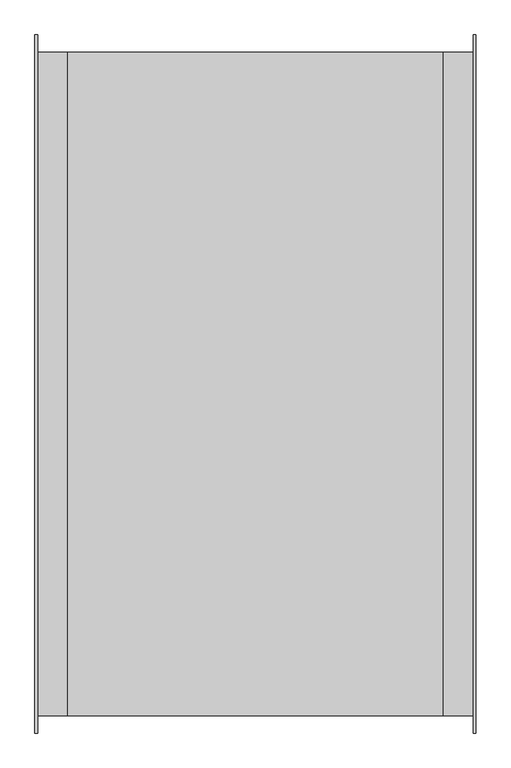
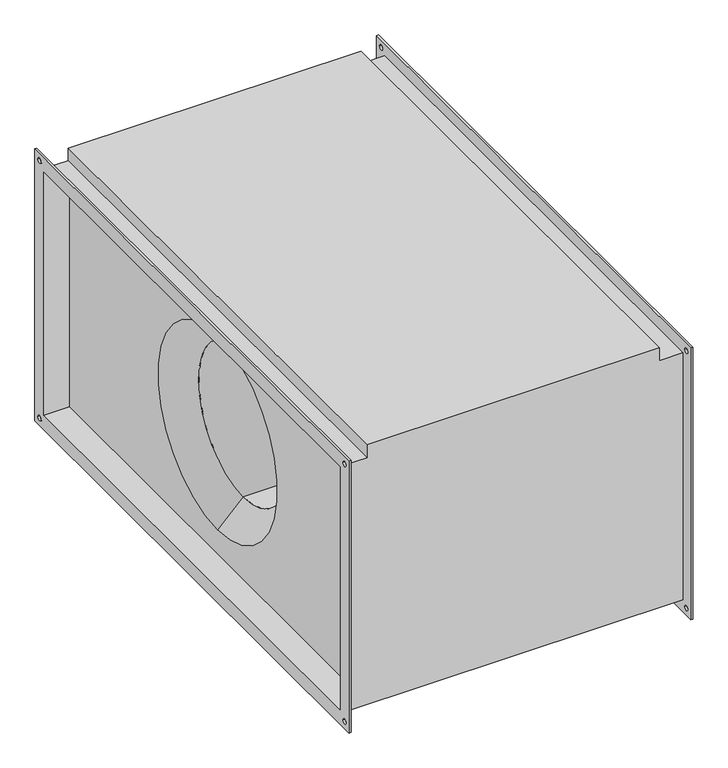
"""IFC4 building model written with IfcOpenShell, lengths in millimetres: proxy geometry, СВ_Вентилятор_КанальныйПрямоугольный_200-1000_SVPS : SVPS-1000x500/40.2D."""

from ifc_helpers import new_model, si_unit, frame, origin, place, context, project, spatial, polyline, circle_curve, source, transform, mapped, element, save
from ifc_brep_helpers import plane_surface, revolved_surface, advanced_brep


def mechanical_equipment_a99c537c(model_context):
    return source(origin(), model_context, "Body", "AdvancedBrep", [
        advanced_brep(
        [(-331.0, -504.0, 254.0), (-285.0, -504.0, 254.0), (-285.0, 504.0, 254.0), (-331.0, 504.0, 254.0), (285.0, 504.0, 280.0), (285.0, -504.0, 280.0), (285.0, -504.0, 254.0), (285.0, 504.0, 254.0), (285.0, 500.0, -250.0), (285.0, 500.0, 250.0), (285.0, -500.0, 250.0), (285.0, -500.0, -250.0), (285.0, 0.0, 200.0), (285.0, 0.0, -200.0), (-285.0, 500.0, 250.0), (-285.0, 500.0, -250.0), (-285.0, -500.0, -250.0), (-285.0, -500.0, 250.0), (-285.0, 0.0, -200.0), (-285.0, 0.0, 200.0), (-285.0, -504.0, 280.0), (-285.0, 504.0, 280.0), (-331.0, -504.0, -254.0), (331.0, -504.0, -254.0), (331.0, -504.0, 254.0), (-331.0, 504.0, -254.0), (331.0, 504.0, -254.0), (331.0, 504.0, 254.0), (235.0, 0.0, -150.0), (235.0, 0.0, 150.0), (-235.0, 0.0, 150.0), (-235.0, 0.0, -150.0), (-335.0, -530.0, 280.0), (-335.0, 530.0, 280.0), (-335.0, 530.0, -280.0), (-335.0, -530.0, -280.0), (-335.0, -500.0, 250.0), (-335.0, -500.0, -250.0), (-335.0, 500.0, -250.0), (-335.0, 500.0, 250.0), (-335.0, 510.0, 265.0), (-335.0, 520.0, 265.0), (-335.0, -520.0, 265.0), (-335.0, -510.0, 265.0), (-335.0, -520.0, -265.0), (-335.0, -510.0, -265.0), (-335.0, 510.0, -265.0), (-335.0, 520.0, -265.0), (-331.0, -530.0, 280.0), (-331.0, -530.0, -280.0), (-331.0, 530.0, -280.0), (-331.0, 530.0, 280.0), (-331.0, 520.0, 265.0), (-331.0, 510.0, 265.0), (-331.0, -510.0, 265.0), (-331.0, -520.0, 265.0), (-331.0, -510.0, -265.0), (-331.0, -520.0, -265.0), (-331.0, 520.0, -265.0), (-331.0, 510.0, -265.0), (331.0, 530.0, 280.0), (331.0, 530.0, -280.0), (331.0, -530.0, -280.0), (331.0, -530.0, 280.0), (331.0, 510.0, 265.0), (331.0, 520.0, 265.0), (331.0, -520.0, 265.0), (331.0, -510.0, 265.0), (331.0, -520.0, -265.0), (331.0, -510.0, -265.0), (331.0, 510.0, -265.0), (331.0, 520.0, -265.0), (335.0, 530.0, 280.0), (335.0, -530.0, 280.0), (335.0, -530.0, -280.0), (335.0, 530.0, -280.0), (335.0, 500.0, 250.0), (335.0, 500.0, -250.0), (335.0, -500.0, -250.0), (335.0, -500.0, 250.0), (335.0, 520.0, 265.0), (335.0, 510.0, 265.0), (335.0, -510.0, 265.0), (335.0, -520.0, 265.0), (335.0, -510.0, -265.0), (335.0, -520.0, -265.0), (335.0, 520.0, -265.0), (335.0, 510.0, -265.0)],
        [
            (0, 1),
            (1, 2),
            (2, 3),
            (3, 0),
            (4, 5),
            (5, 6),
            (6, 7),
            (7, 4),
            (8, 9),
            (9, 10),
            (10, 11),
            (11, 8),
            (12, 13, circle_curve(frame((285.0, 0.0, 0.0), z_axis=(-1.0, 0.0, 0.0), x_axis=(0.0, 0.0, 1.0)), 200.0)),
            (13, 12, circle_curve(frame((285.0, 0.0, 0.0), z_axis=(-1.0, 0.0, 0.0), x_axis=(0.0, 0.0, 1.0)), 200.0)),
            (14, 15),
            (15, 16),
            (16, 17),
            (17, 14),
            (18, 19, circle_curve(frame((-285.0, 0.0, 0.0), z_axis=(1.0, 0.0, 0.0), x_axis=(0.0, 0.0, 1.0)), 200.0)),
            (19, 18, circle_curve(frame((-285.0, 0.0, 0.0), z_axis=(1.0, 0.0, 0.0), x_axis=(0.0, 0.0, 1.0)), 200.0)),
            (20, 21),
            (21, 2),
            (1, 20),
            (5, 20),
            (0, 22),
            (22, 23),
            (23, 24),
            (24, 6),
            (22, 25),
            (25, 26),
            (26, 23),
            (21, 4),
            (7, 27),
            (27, 26),
            (25, 3),
            (24, 27),
            (28, 13),
            (12, 29),
            (29, 28, circle_curve(frame((235.0, 0.0, 0.0), z_axis=(-1.0, 0.0, 0.0), x_axis=(0.0, 0.0, 1.0)), 150.0)),
            (28, 29, circle_curve(frame((235.0, 0.0, 0.0), z_axis=(-1.0, 0.0, 0.0), x_axis=(0.0, 0.0, 1.0)), 150.0)),
            (29, 30),
            (30, 31, circle_curve(frame((-235.0, 0.0, 0.0), z_axis=(-1.0, 0.0, 0.0), x_axis=(0.0, 0.0, 1.0)), 150.0)),
            (31, 28),
            (31, 30, circle_curve(frame((-235.0, 0.0, 0.0), z_axis=(-1.0, 0.0, 0.0), x_axis=(0.0, 0.0, 1.0)), 150.0)),
            (30, 19),
            (18, 31),
            (32, 33),
            (33, 34),
            (34, 35),
            (35, 32),
            (36, 37),
            (37, 38),
            (38, 39),
            (39, 36),
            (40, 41, circle_curve(frame((-335.0, 515.0, 265.0), z_axis=(1.0, 0.0, 0.0), x_axis=(0.0, 1.0, 0.0)), 5.0)),
            (41, 40, circle_curve(frame((-335.0, 515.0, 265.0), z_axis=(1.0, 0.0, 0.0), x_axis=(0.0, 1.0, 0.0)), 5.0)),
            (42, 43, circle_curve(frame((-335.0, -515.0, 265.0), z_axis=(1.0, 0.0, 0.0), x_axis=(0.0, 1.0, 0.0)), 5.0)),
            (43, 42, circle_curve(frame((-335.0, -515.0, 265.0), z_axis=(1.0, 0.0, 0.0), x_axis=(0.0, 1.0, 0.0)), 5.0)),
            (44, 45, circle_curve(frame((-335.0, -515.0, -265.0), z_axis=(1.0, 0.0, 0.0), x_axis=(0.0, 1.0, 0.0)), 5.0)),
            (45, 44, circle_curve(frame((-335.0, -515.0, -265.0), z_axis=(1.0, 0.0, 0.0), x_axis=(0.0, 1.0, 0.0)), 5.0)),
            (46, 47, circle_curve(frame((-335.0, 515.0, -265.0), z_axis=(1.0, 0.0, 0.0), x_axis=(0.0, 1.0, 0.0)), 5.0)),
            (47, 46, circle_curve(frame((-335.0, 515.0, -265.0), z_axis=(1.0, 0.0, 0.0), x_axis=(0.0, 1.0, 0.0)), 5.0)),
            (48, 49),
            (49, 50),
            (50, 51),
            (51, 48),
            (52, 53, circle_curve(frame((-331.0, 515.0, 265.0), z_axis=(-1.0, 0.0, 0.0), x_axis=(0.0, 1.0, 0.0)), 5.0)),
            (53, 52, circle_curve(frame((-331.0, 515.0, 265.0), z_axis=(-1.0, 0.0, 0.0), x_axis=(0.0, 1.0, 0.0)), 5.0)),
            (54, 55, circle_curve(frame((-331.0, -515.0, 265.0), z_axis=(-1.0, 0.0, 0.0), x_axis=(0.0, 1.0, 0.0)), 5.0)),
            (55, 54, circle_curve(frame((-331.0, -515.0, 265.0), z_axis=(-1.0, 0.0, 0.0), x_axis=(0.0, 1.0, 0.0)), 5.0)),
            (56, 57, circle_curve(frame((-331.0, -515.0, -265.0), z_axis=(-1.0, 0.0, 0.0), x_axis=(0.0, 1.0, 0.0)), 5.0)),
            (57, 56, circle_curve(frame((-331.0, -515.0, -265.0), z_axis=(-1.0, 0.0, 0.0), x_axis=(0.0, 1.0, 0.0)), 5.0)),
            (58, 59, circle_curve(frame((-331.0, 515.0, -265.0), z_axis=(-1.0, 0.0, 0.0), x_axis=(0.0, 1.0, 0.0)), 5.0)),
            (59, 58, circle_curve(frame((-331.0, 515.0, -265.0), z_axis=(-1.0, 0.0, 0.0), x_axis=(0.0, 1.0, 0.0)), 5.0)),
            (35, 49),
            (48, 32),
            (34, 50),
            (33, 51),
            (60, 61),
            (61, 62),
            (62, 63),
            (63, 60),
            (64, 65, circle_curve(frame((331.0, 515.0, 265.0), z_axis=(1.0, 0.0, 0.0), x_axis=(0.0, 1.0, 0.0)), 5.0)),
            (65, 64, circle_curve(frame((331.0, 515.0, 265.0), z_axis=(1.0, 0.0, 0.0), x_axis=(0.0, 1.0, 0.0)), 5.0)),
            (66, 67, circle_curve(frame((331.0, -515.0, 265.0), z_axis=(1.0, 0.0, 0.0), x_axis=(0.0, 1.0, 0.0)), 5.0)),
            (67, 66, circle_curve(frame((331.0, -515.0, 265.0), z_axis=(1.0, 0.0, 0.0), x_axis=(0.0, 1.0, 0.0)), 5.0)),
            (68, 69, circle_curve(frame((331.0, -515.0, -265.0), z_axis=(1.0, 0.0, 0.0), x_axis=(0.0, 1.0, 0.0)), 5.0)),
            (69, 68, circle_curve(frame((331.0, -515.0, -265.0), z_axis=(1.0, 0.0, 0.0), x_axis=(0.0, 1.0, 0.0)), 5.0)),
            (70, 71, circle_curve(frame((331.0, 515.0, -265.0), z_axis=(1.0, 0.0, 0.0), x_axis=(0.0, 1.0, 0.0)), 5.0)),
            (71, 70, circle_curve(frame((331.0, 515.0, -265.0), z_axis=(1.0, 0.0, 0.0), x_axis=(0.0, 1.0, 0.0)), 5.0)),
            (72, 73),
            (73, 74),
            (74, 75),
            (75, 72),
            (76, 77),
            (77, 78),
            (78, 79),
            (79, 76),
            (80, 81, circle_curve(frame((335.0, 515.0, 265.0), z_axis=(-1.0, 0.0, 0.0), x_axis=(0.0, 1.0, 0.0)), 5.0)),
            (81, 80, circle_curve(frame((335.0, 515.0, 265.0), z_axis=(-1.0, 0.0, 0.0), x_axis=(0.0, 1.0, 0.0)), 5.0)),
            (82, 83, circle_curve(frame((335.0, -515.0, 265.0), z_axis=(-1.0, 0.0, 0.0), x_axis=(0.0, 1.0, 0.0)), 5.0)),
            (83, 82, circle_curve(frame((335.0, -515.0, 265.0), z_axis=(-1.0, 0.0, 0.0), x_axis=(0.0, 1.0, 0.0)), 5.0)),
            (84, 85, circle_curve(frame((335.0, -515.0, -265.0), z_axis=(-1.0, 0.0, 0.0), x_axis=(0.0, 1.0, 0.0)), 5.0)),
            (85, 84, circle_curve(frame((335.0, -515.0, -265.0), z_axis=(-1.0, 0.0, 0.0), x_axis=(0.0, 1.0, 0.0)), 5.0)),
            (86, 87, circle_curve(frame((335.0, 515.0, -265.0), z_axis=(-1.0, 0.0, 0.0), x_axis=(0.0, 1.0, 0.0)), 5.0)),
            (87, 86, circle_curve(frame((335.0, 515.0, -265.0), z_axis=(-1.0, 0.0, 0.0), x_axis=(0.0, 1.0, 0.0)), 5.0)),
            (63, 73),
            (72, 60),
            (62, 74),
            (61, 75),
            (39, 14),
            (17, 36),
            (38, 15),
            (37, 16),
            (76, 9),
            (8, 77),
            (11, 78),
            (10, 79),
            (40, 53),
            (52, 41),
            (64, 81),
            (80, 65),
            (42, 55),
            (54, 43),
            (66, 83),
            (82, 67),
            (44, 57),
            (56, 45),
            (68, 85),
            (84, 69),
            (46, 59),
            (58, 47),
            (70, 87),
            (86, 71),
        ],
        [
            plane_surface(frame((-285.0, 504.0, 254.0), z_axis=(0.0, 0.0, 1.0), x_axis=(-1.0, 0.0, 0.0))),
            plane_surface(frame((285.0, -504.0, 280.0), z_axis=(1.0, 0.0, 0.0), x_axis=(0.0, 0.0, -1.0))),
            plane_surface(frame((-285.0, -504.0, 280.0), z_axis=(-1.0, 0.0, 0.0), x_axis=(0.0, 0.0, 1.0))),
            plane_surface(frame((285.0, -504.0, 280.0), z_axis=(0.0, -1.0, 0.0), x_axis=(-1.0, 0.0, 0.0))),
            plane_surface(frame((285.0, -504.0, -254.0), z_axis=(0.0, 0.0, -1.0), x_axis=(-1.0, 0.0, 0.0))),
            plane_surface(frame((285.0, 504.0, -254.0), z_axis=(0.0, 1.0, 0.0), x_axis=(-1.0, 0.0, 0.0))),
            plane_surface(frame((285.0, 504.0, 280.0), z_axis=(0.0, 0.0, 1.0), x_axis=(-1.0, 0.0, 0.0))),
            plane_surface(frame((331.0, 504.0, 254.0), z_axis=(0.0, 0.0, 1.0), x_axis=(-1.0, 0.0, 0.0))),
            revolved_surface(polyline([(235.0, 0.0, 150.0), (285.0, 0.0, 200.0)]), (-722.0617897, 0.0, 0.0), (-1.0, 0.0, 0.0)),
            revolved_surface(polyline([(-235.0, 0.0, 150.0), (235.0, 0.0, 150.0)]), (-722.0617897, 0.0, 0.0), (-1.0, 0.0, 0.0)),
            revolved_surface(polyline([(-285.0, 0.0, 200.0), (-235.0, 0.0, 150.0)]), (-722.0617897, 0.0, 0.0), (-1.0, 0.0, 0.0)),
            plane_surface(frame((-335.0, -530.0, 280.0), z_axis=(-1.0, 0.0, 0.0), x_axis=(0.0, 0.0, 1.0))),
            plane_surface(frame((-331.0, -530.0, 280.0), z_axis=(1.0, 0.0, 0.0), x_axis=(0.0, 0.0, -1.0))),
            plane_surface(frame((-331.0, -530.0, 280.0), z_axis=(0.0, -1.0, 0.0), x_axis=(-1.0, 0.0, 0.0))),
            plane_surface(frame((-331.0, -530.0, -280.0), z_axis=(0.0, 0.0, -1.0), x_axis=(-1.0, 0.0, 0.0))),
            plane_surface(frame((-331.0, 530.0, -280.0), z_axis=(0.0, 1.0, 0.0), x_axis=(-1.0, 0.0, 0.0))),
            plane_surface(frame((-331.0, 530.0, 280.0), z_axis=(0.0, 0.0, 1.0), x_axis=(-1.0, 0.0, 0.0))),
            plane_surface(frame((331.0, 500.0, -250.0), z_axis=(-1.0, 0.0, 0.0), x_axis=(0.0, 0.0, 1.0))),
            plane_surface(frame((335.0, 500.0, -250.0), z_axis=(1.0, 0.0, 0.0), x_axis=(0.0, 0.0, -1.0))),
            plane_surface(frame((335.0, 530.0, 280.0), z_axis=(0.0, 0.0, 1.0), x_axis=(-1.0, 0.0, 0.0))),
            plane_surface(frame((335.0, -530.0, 280.0), z_axis=(0.0, -1.0, 0.0), x_axis=(-1.0, 0.0, 0.0))),
            plane_surface(frame((335.0, -530.0, -280.0), z_axis=(0.0, 0.0, -1.0), x_axis=(-1.0, 0.0, 0.0))),
            plane_surface(frame((335.0, 530.0, -280.0), z_axis=(0.0, 1.0, 0.0), x_axis=(-1.0, 0.0, 0.0))),
            plane_surface(frame((-331.0, -500.0, 250.0), z_axis=(0.0, 0.0, -1.0), x_axis=(-1.0, 0.0, 0.0))),
            plane_surface(frame((-331.0, 500.0, 250.0), z_axis=(0.0, -1.0, 0.0), x_axis=(-1.0, 0.0, 0.0))),
            plane_surface(frame((-331.0, 500.0, -250.0), z_axis=(0.0, 0.0, 1.0), x_axis=(-1.0, 0.0, 0.0))),
            plane_surface(frame((-331.0, -500.0, -250.0), z_axis=(0.0, 1.0, 0.0), x_axis=(-1.0, 0.0, 0.0))),
            plane_surface(frame((335.0, 500.0, 250.0), z_axis=(0.0, -1.0, 0.0), x_axis=(-1.0, 0.0, 0.0))),
            plane_surface(frame((335.0, 500.0, -250.0), z_axis=(0.0, 0.0, 1.0), x_axis=(-1.0, 0.0, 0.0))),
            plane_surface(frame((335.0, -500.0, -250.0), z_axis=(0.0, 1.0, 0.0), x_axis=(-1.0, 0.0, 0.0))),
            plane_surface(frame((335.0, -500.0, 250.0), z_axis=(0.0, 0.0, -1.0), x_axis=(-1.0, 0.0, 0.0))),
            revolved_surface(polyline([(-331.0, 520.0, 265.0), (-335.0, 520.0, 265.0)]), (-335.0, 515.0, 265.0), (1.0, 0.0, 0.0)),
            revolved_surface(polyline([(335.0, 520.0, 265.0), (331.0, 520.0, 265.0)]), (-335.0, 515.0, 265.0), (1.0, 0.0, 0.0)),
            revolved_surface(polyline([(-331.0, -510.0, 265.0), (-335.0, -510.0, 265.0)]), (0.0, -515.0, 265.0), (1.0, 0.0, 0.0)),
            revolved_surface(polyline([(335.0, -510.0, 265.0), (331.0, -510.0, 265.0)]), (0.0, -515.0, 265.0), (1.0, 0.0, 0.0)),
            revolved_surface(polyline([(-331.0, -510.0, -265.0), (-335.0, -510.0, -265.0)]), (0.0, -515.0, -265.0), (1.0, 0.0, 0.0)),
            revolved_surface(polyline([(335.0, -510.0, -265.0), (331.0, -510.0, -265.0)]), (0.0, -515.0, -265.0), (1.0, 0.0, 0.0)),
            revolved_surface(polyline([(-331.0, 520.0, -265.0), (-335.0, 520.0, -265.0)]), (0.0, 515.0, -265.0), (1.0, 0.0, 0.0)),
            revolved_surface(polyline([(335.0, 520.0, -265.0), (331.0, 520.0, -265.0)]), (0.0, 515.0, -265.0), (1.0, 0.0, 0.0)),
        ],
        [
            (0, [[1, 2, 3, 4]]),
            (1, [[5, 6, 7, 8]]),
            (1, [[9, 10, 11, 12], [13, 14]]),
            (2, [[15, 16, 17, 18], [19, 20]]),
            (2, [[21, 22, -2, 23]]),
            (3, [[24, -23, -1, 25, 26, 27, 28, -6]]),
            (4, [[-26, 29, 30, 31]]),
            (5, [[32, -8, 33, 34, -30, 35, -3, -22]]),
            (6, [[-5, -32, -21, -24]]),
            (7, [[-28, 36, -33, -7]]),
            (8, [[37, -13, 38, 39]]),
            (8, [[-37, 40, -38, -14]]),
            (9, [[-39, 41, 42, 43]]),
            (9, [[-40, -43, 44, -41]]),
            (10, [[-42, 45, -19, 46]]),
            (10, [[-44, -46, -20, -45]]),
            (11, [[47, 48, 49, 50], [51, 52, 53, 54], [55, 56], [57, 58], [59, 60], [61, 62]]),
            (12, [[63, 64, 65, 66], [-25, -4, -35, -29], [67, 68], [69, 70], [71, 72], [73, 74]]),
            (13, [[-50, 75, -63, 76]]),
            (14, [[-49, 77, -64, -75]]),
            (15, [[-48, 78, -65, -77]]),
            (16, [[-47, -76, -66, -78]]),
            (17, [[79, 80, 81, 82], [-27, -31, -34, -36], [83, 84], [85, 86], [87, 88], [89, 90]]),
            (18, [[91, 92, 93, 94], [95, 96, 97, 98], [99, 100], [101, 102], [103, 104], [105, 106]]),
            (19, [[-82, 107, -91, 108]]),
            (20, [[-81, 109, -92, -107]]),
            (21, [[-80, 110, -93, -109]]),
            (22, [[-79, -108, -94, -110]]),
            (23, [[-54, 111, -18, 112]]),
            (24, [[-53, 113, -15, -111]]),
            (25, [[-52, 114, -16, -113]]),
            (26, [[-51, -112, -17, -114]]),
            (27, [[-95, 115, -9, 116]]),
            (28, [[-96, -116, -12, 117]]),
            (29, [[-97, -117, -11, 118]]),
            (30, [[-115, -98, -118, -10]]),
            (31, [[119, -67, 120, -55]]),
            (32, [[121, -99, 122, -83]]),
            (31, [[-119, -56, -120, -68]]),
            (32, [[-121, -84, -122, -100]]),
            (33, [[123, -69, 124, -57]]),
            (34, [[125, -101, 126, -85]]),
            (33, [[-123, -58, -124, -70]]),
            (34, [[-125, -86, -126, -102]]),
            (35, [[127, -71, 128, -59]]),
            (36, [[129, -103, 130, -87]]),
            (35, [[-127, -60, -128, -72]]),
            (36, [[-129, -88, -130, -104]]),
            (37, [[131, -73, 132, -61]]),
            (38, [[133, -105, 134, -89]]),
            (37, [[-131, -62, -132, -74]]),
            (38, [[-133, -90, -134, -106]]),
        ],
    ),
    ])


if __name__ == "__main__":
    model = new_model("IFC4")
    model_context = context("Model", 3, world=origin())
    ifc_project = project(units=[si_unit("LENGTHUNIT", "METRE", prefix="MILLI")], contexts=[model_context])
    site = spatial("IfcSite", under=ifc_project)
    building = spatial("IfcBuilding", under=site)
    placement = place(None, origin())
    mechanical_equipment_shape = mechanical_equipment_a99c537c(model_context)
    element("IfcBuildingElementProxy", 1, Name="СВ_Вентилятор_КанальныйПрямоугольный_200-1000_SVPS : SVPS-1000x500/40.2D", ObjectType="СВ_Вентилятор_КанальныйПрямоугольный_200-1000_SVPS : SVPS-1000x500/40.2D", at=placement, inside=building, context=model_context, shape_type="MappedRepresentation", body=[
        mapped(mechanical_equipment_shape, transform((0.0, 0.0, 0.0), x_axis=(1.0, 0.0, 0.0), y_axis=(0.0, 1.0, 0.0), z_axis=(0.0, 0.0, 1.0))),
    ])
    save(model, "model.ifc")
